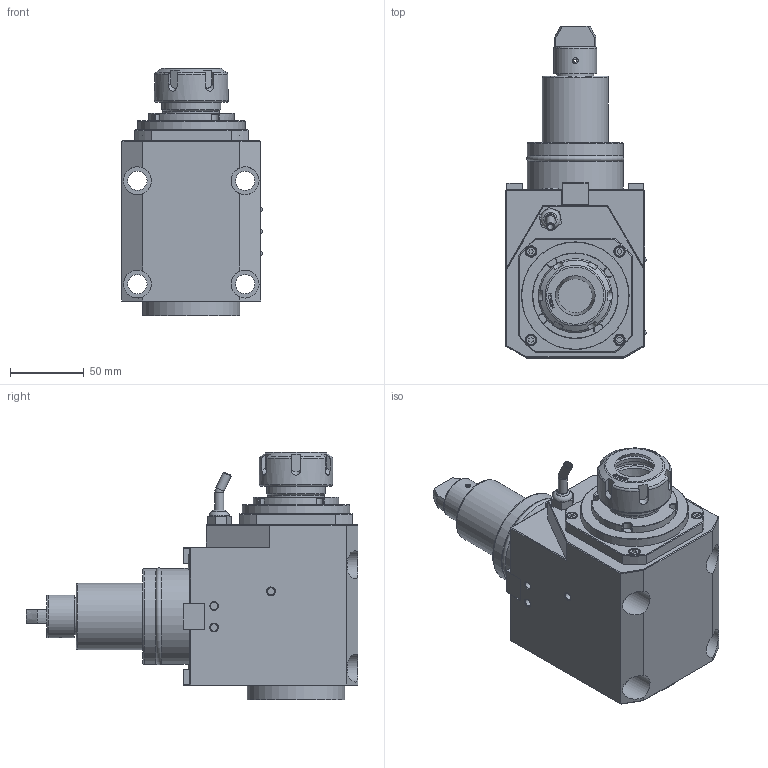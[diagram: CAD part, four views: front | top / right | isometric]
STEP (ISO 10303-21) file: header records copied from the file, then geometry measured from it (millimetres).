
FILE_DESCRIPTION(/* description */ (''),/* implementation_level */ '2;1');
FILE_NAME(/* name */ 'BMT65-90-72-ER32.stp',/* time_stamp */ '2025-10-08T15:54:16+03:00',/* author */ ('User'),/* organization */ (''),/* preprocessor_version */ 'ST-DEVELOPER v19.2',/* originating_system */ 'Autodesk Inventor 2024',/* authorisation */ '');
FILE_SCHEMA (('AUTOMOTIVE_DESIGN { 1 0 10303 214 3 1 1 }'));
Length unit declared in the file: millimetre
Products named in the file (3): BMT65-90-72-ER32; BMT45-90-60 ER25; Крепление
Assembly tree (2 placements, depth 2):
  BMT65-90-72-ER32
    BMT45-90-60 ER25
    Крепление
Bounding box: 95 x 225 x 167.8 mm (x, y, z)
Volume: 1366616.1 mm3; surface area: 136138.6 mm2
Topology: 2 solids, 2 shells, 580 faces, 1408 edges, 912 vertices
Faces by surface type: plane 376, cylinder 82, bspline 54, cone 49, torus 19
Full cylindrical faces by diameter (mm): 2 x1, 3.8 x3, 4 x4, 4.917 x3, 6 x5, 6.5 x4, 7 x6, 7.5 x4, 8 x4, 8.5 x4, 9 x4, 13 x4, 13.5 x1, 19 x4, 23.005 x1, 25 x1, 29 x2, 32.5 x1, 38 x1, 39 x2, 40 x1, 45 x1, 50 x1, 57 x1, 58 x1, 65 x2, 66 x1, 73 x1
Entity records: 17989 total; most frequent: CARTESIAN_POINT 4006, ORIENTED_EDGE 2816, DIRECTION 2608, EDGE_CURVE 1408, LINE 928, VECTOR 928, VERTEX_POINT 912, AXIS2_PLACEMENT_3D 840
